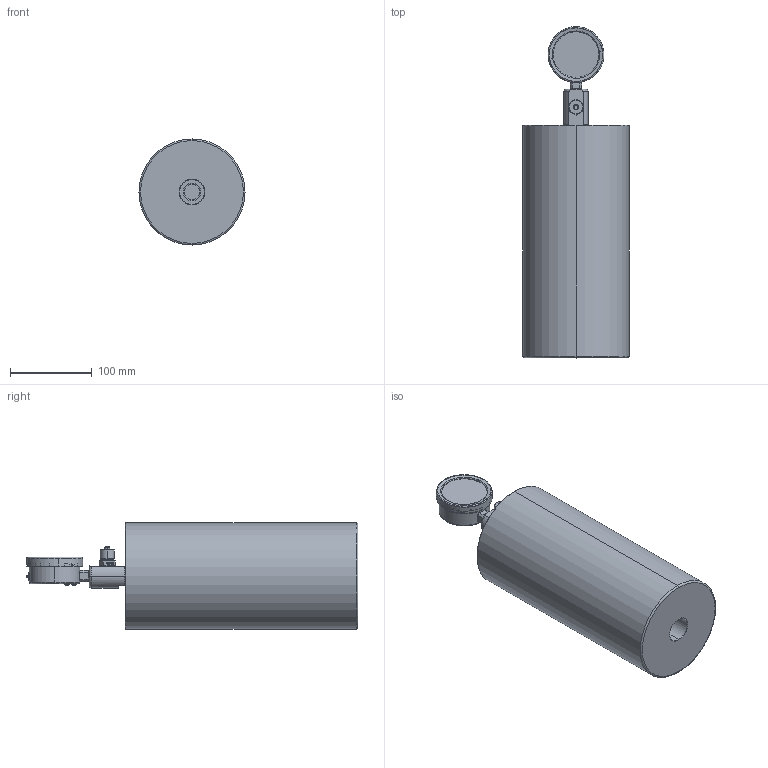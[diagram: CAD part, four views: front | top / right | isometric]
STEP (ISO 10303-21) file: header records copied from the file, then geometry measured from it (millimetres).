
FILE_DESCRIPTION (( 'STEP AP214' ), '1' );
FILE_NAME ('U015A01X1-PP (DGA).STEP', '2025-04-08T14:21:48', ( '' ), ( '' ), 'SwSTEP 2.0', 'SolidWorks 2024', '' );
FILE_SCHEMA (( 'AUTOMOTIVE_DESIGN' ));
Length unit declared in the file: millimetre
Products named in the file (1): U015A01X1-PP (DGA)
Bounding box: 130 x 406.6 x 130 mm (x, y, z)
Surface area: 221097.2 mm2 (no closed solid volume)
Topology: 0 solids, 19 shells, 801 faces, 2582 edges, 1744 vertices
Faces by surface type: plane 299, bspline 187, cylinder 182, cone 75, torus 48, sphere 10
Entity records: 60589 total; most frequent: CARTESIAN_POINT 31249, ORIENTED_EDGE 4368, DIRECTION 3540, EDGE_CURVE 2580, VERTEX_POINT 1744, LINE 1356, VECTOR 1356, AXIS2_PLACEMENT_3D 1092
